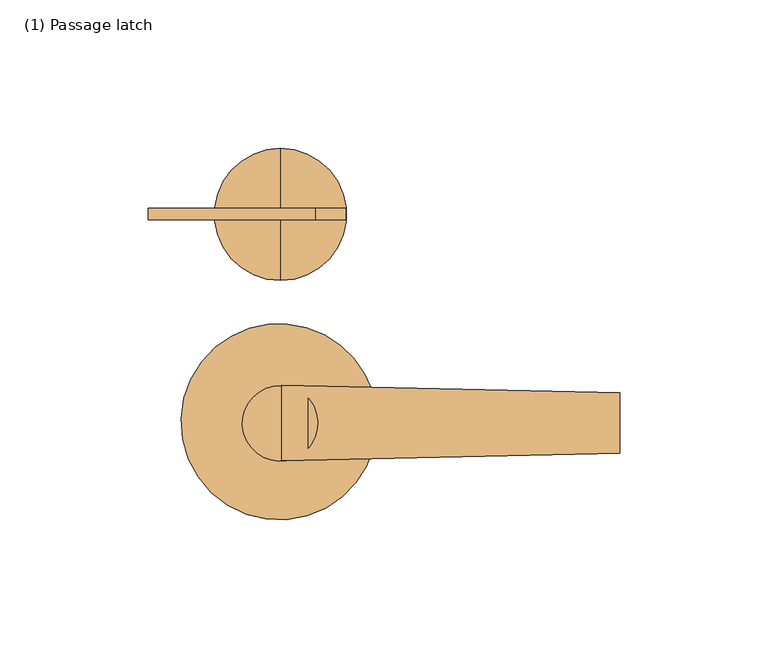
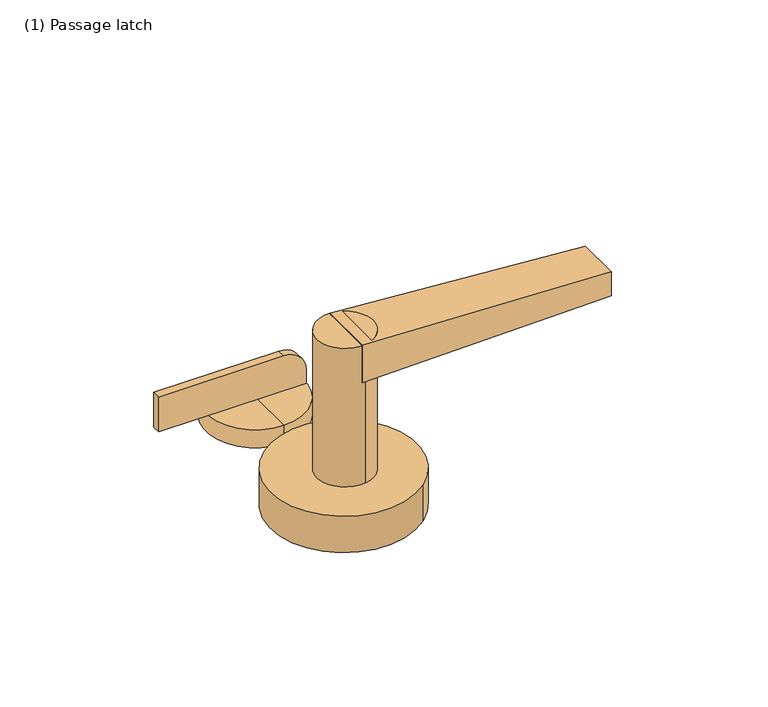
"""IFC4 building model written with IfcOpenShell, lengths in millimetres: door geometry, Door_Handle-Teknion-FHHSL-Schlage L Series(Child) : (1) Passage latch."""

from ifc_helpers import new_model, si_unit, point, frame, frame_2d, origin, origin_with_axes, place, context, project, spatial, polyline, circle_curve, trimmed, segment, composite_curve, outline, extrude, source, transform, mapped, element, save
from ifc_brep_helpers import plane_surface, cylinder_surface, spline_surface, advanced_brep


def door_1_passage_latch_2e0f7439(model_context):
    return source(origin(), model_context, "Body", "SolidModel", [
        advanced_brep(
        [(113.0826159, -9.8661661, 77.089), (113.0826159, -9.8661661, 65.659), (113.0826159, 10.4783486, 65.659), (113.0826159, 10.4783486, 77.089), (-0.79375, -12.3783123, 83.439), (-0.79375, 13.0118705, 83.439), (-0.79375, 13.0089229, 65.659), (-0.79375, -12.378509, 65.659)],
        [
            (0, 1),
            (1, 2),
            (2, 3),
            (3, 0),
            (4, 5),
            (5, 6),
            (6, 7),
            (7, 4),
            (7, 1),
            (0, 4),
            (6, 2),
            (5, 3),
        ],
        [
            plane_surface(frame((113.0826159, 0.3060912, 71.374), z_axis=(1.0, 0.0, 0.0), x_axis=(0.0, -1.0, 0.0))),
            plane_surface(frame((-0.79375, 0.315993, 74.549), z_axis=(-1.0000000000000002, 0.0, 0.0), x_axis=(0.0, -1.1064247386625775e-05, -0.9999999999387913))),
            spline_surface(1, 1, [[(-0.79375, -12.3783123, 83.439), (113.0826159, -9.8661661, 77.089)], [(-0.79375, -12.378509, 65.659), (113.0826159, -9.8661661, 65.659)]], [2, 2], [2, 2], [0.0, 1.0], [0.0, 1.0]),
            plane_surface(frame((-0.79375, 0.315207, 65.659), z_axis=(0.0, 0.0, -1.0), x_axis=(0.0, 1.0, 0.0))),
            spline_surface(1, 1, [[(-0.79375, 13.0089229, 65.659), (113.0826159, 10.4783486, 65.659)], [(-0.79375, 13.0118705, 83.439), (113.0826159, 10.4783486, 77.089)]], [2, 2], [2, 2], [0.0, 1.0], [0.0, 1.0]),
            plane_surface(frame((-0.79375, 0.3167791, 83.439), z_axis=(0.05567573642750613, 0.0, 0.9984489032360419), x_axis=(0.0, -1.0, 0.0))),
        ],
        [
            (0, [[1, 2, 3, 4]]),
            (1, [[5, 6, 7, 8]]),
            (2, [[-8, 9, -1, 10]]),
            (3, [[-7, 11, -2, -9]]),
            (4, [[-6, 12, -3, -11]]),
            (5, [[-5, -10, -4, -12]]),
        ],
    ),
        extrude(outline(composite_curve([segment(trimmed(circle_curve(frame_2d((-1.3064074, 0.1984375)), 12.7), [point((-3.427265, 12.7200973))], [point((0.8144502, -12.3232223))], False, "CARTESIAN"), True, "CONTINUOUS"), segment(trimmed(circle_curve(frame_2d((-1.3064074, 0.1984375)), 12.7), [point((0.8144502, -12.3232223))], [point((-3.427265, 12.7200973))], False, "CARTESIAN"), True, "CONTINUOUS")], self_intersect=False)), frame((0.0, 0.0, 17.399), z_axis=(0.0, 0.0, 1.0), x_axis=(1.0, 0.0, 0.0)), (0.0, 0.0, 1.0), 66.04),
        extrude(outline(composite_curve([segment(trimmed(circle_curve(frame_2d((-1.6178614, 0.7745191)), 33.02), [point((-22.9508261, 25.9781898))], [point((19.7151032, -24.4291516))], False, "CARTESIAN"), True, "CONTINUOUS"), segment(trimmed(circle_curve(frame_2d((-1.6178614, 0.7745191)), 33.02), [point((19.7151032, -24.4291516))], [point((-22.9508261, 25.9781898))], False, "CARTESIAN"), True, "CONTINUOUS")], self_intersect=False)), origin_with_axes(), (0.0, 0.0, 1.0), 17.399),
        extrude(outline(composite_curve([segment(polyline([(25.146, 10.6467926), (25.146, -45.6833325), (8.636, -45.6833325), (8.636, 20.8690339), (15.3233, 20.8690339)]), True, "CONTINUOUS"), segment(trimmed(circle_curve(frame_2d((14.9632029, 10.6925033)), 10.1828997), [point((15.3233, 20.8690339))], [point((25.146, 10.6467926))], False, "CARTESIAN"), True, "CONTINUOUS")], self_intersect=False)), frame((0.0, 68.8789197, 0.0), z_axis=(0.0, 1.0, 0.0), x_axis=(0.0, 0.0, 1.0)), (0.0, 0.0, 1.0), 3.81),
        advanced_brep(
        [(-1.190625, 92.8715961, 8.636), (-1.190625, 48.3891034, 8.636), (-1.190625, 70.6303498, 8.636), (-1.190625, 92.8715961, 0.0), (-1.190625, 48.3891034, 0.0), (-1.190625, 70.6303498, 0.0)],
        [
            (0, 1, circle_curve(frame((-1.190625, 70.6303498, 8.636), z_axis=(0.0, 0.0, 1.0), x_axis=(0.0, -1.0, 0.0)), 22.2412463)),
            (1, 2),
            (2, 0),
            (1, 0, circle_curve(frame((-1.190625, 70.6303498, 8.636), z_axis=(0.0, 0.0, 1.0), x_axis=(0.0, -1.0, 0.0)), 22.2412463)),
            (3, 4, circle_curve(frame((-1.190625, 70.6303498, 0.0), z_axis=(0.0, 0.0, 1.0), x_axis=(0.0, -1.0, 0.0)), 22.2412463)),
            (4, 1),
            (0, 3),
            (4, 3, circle_curve(frame((-1.190625, 70.6303498, 0.0), z_axis=(0.0, 0.0, 1.0), x_axis=(0.0, -1.0, 0.0)), 22.2412463)),
            (5, 4),
            (3, 5),
        ],
        [
            plane_surface(frame((-1.190625, 70.6303498, 8.636), z_axis=(0.0, 0.0, 1.0), x_axis=(0.0, -1.0, 0.0))),
            cylinder_surface(frame((-1.190625, 70.6303498, 76.2), z_axis=(0.0, 0.0, -1.0), x_axis=(0.0, -1.0, 0.0)), 22.2412463),
            plane_surface(frame((-1.190625, 70.6303498, 0.0), z_axis=(0.0, 0.0, -1.0), x_axis=(0.0, -1.0, 0.0))),
        ],
        [
            (0, [[1, 2, 3]]),
            (0, [[4, -3, -2]]),
            (1, [[5, 6, -1, 7]]),
            (1, [[8, -7, -4, -6]]),
            (2, [[9, -5, 10]]),
            (2, [[-10, -8, -9]]),
        ],
    ),
    ])


if __name__ == "__main__":
    model = new_model("IFC4")
    model_context = context("Model", 3, world=origin())
    ifc_project = project(units=[si_unit("LENGTHUNIT", "METRE", prefix="MILLI")], contexts=[model_context])
    site = spatial("IfcSite", under=ifc_project)
    building = spatial("IfcBuilding", under=site)
    placement = place(None, origin())
    door_1_passage_latch_shape = door_1_passage_latch_2e0f7439(model_context)
    element("IfcDoor", 1, ObjectType="Door_Handle-Teknion-FHHSL-Schlage L Series(Child) : (1) Passage latch", at=placement, inside=building, context=model_context, shape_type="MappedRepresentation", body=[
        mapped(door_1_passage_latch_shape, transform((0.0, 0.0, 0.0), x_axis=(1.0, 0.0, 0.0), y_axis=(0.0, 1.0, 0.0), z_axis=(0.0, 0.0, 1.0))),
    ])
    save(model, "model.ifc")
